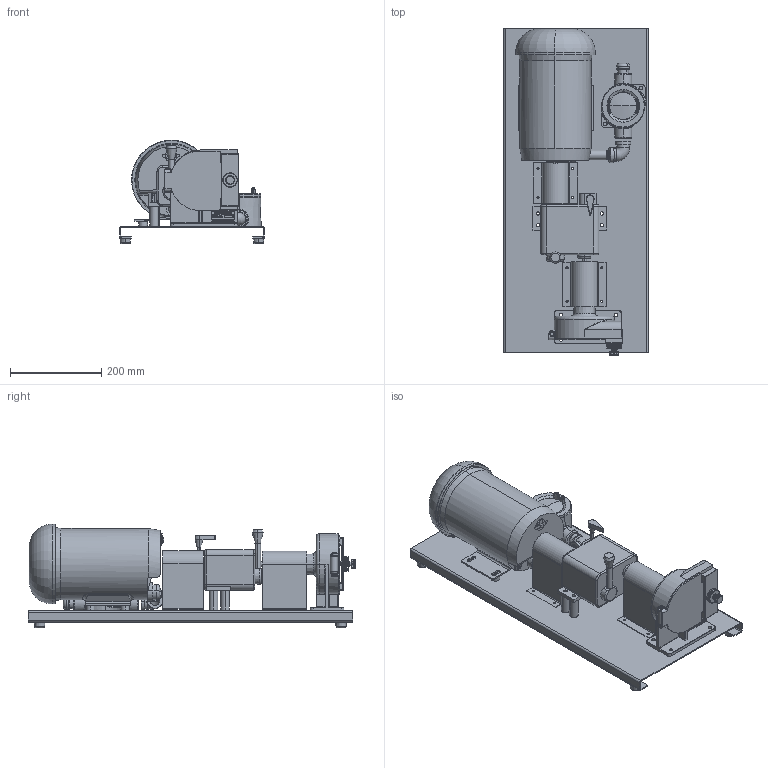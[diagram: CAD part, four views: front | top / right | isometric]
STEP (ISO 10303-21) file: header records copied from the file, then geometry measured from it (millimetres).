
FILE_DESCRIPTION (( 'STEP AP203' ), '1' );
FILE_NAME ('610-203.STEP', '2012-09-04T21:51:37', ( '' ), ( '' ), 'SwSTEP 2.0', 'SolidWorks 2012', '' );
FILE_SCHEMA (( 'CONFIG_CONTROL_DESIGN' ));
Length unit declared in the file: inch
Products named in the file (1): 610-203
Bounding box: 317.5 x 718.62 x 227.07 mm (x, y, z)
Surface area: 1191341.1 mm2 (no closed solid volume)
Topology: 0 solids, 72 shells, 983 faces, 4488 edges, 3487 vertices
Faces by surface type: cylinder 422, plane 298, cone 119, torus 88, bspline 52, sphere 4
Entity records: 58729 total; most frequent: CARTESIAN_POINT 24081, DIRECTION 6940, ORIENTED_EDGE 6344, EDGE_CURVE 4479, VERTEX_POINT 3487, AXIS2_PLACEMENT_3D 2442, VECTOR 2056, LINE 2056
